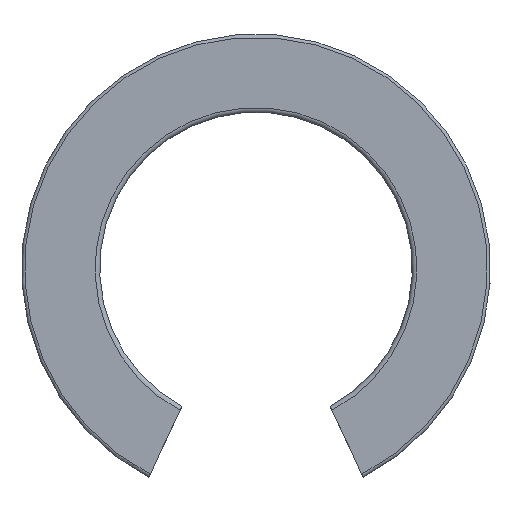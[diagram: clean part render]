
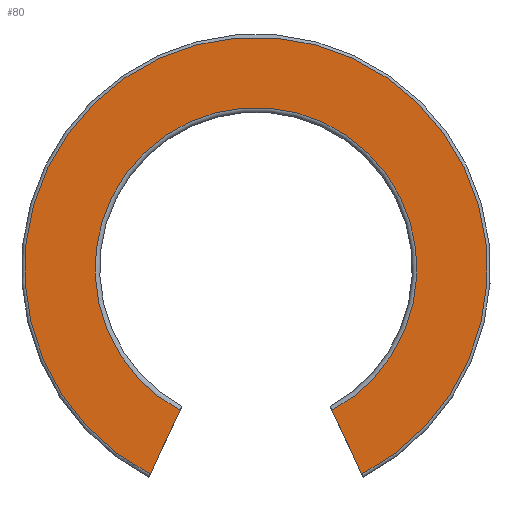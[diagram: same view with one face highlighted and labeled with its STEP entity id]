
A CAD part, left-side view. The second image highlights one B-rep face of the part: STEP entity #80.
In plain terms, the highlighted planar face has unit normal (-1, 0, 0).
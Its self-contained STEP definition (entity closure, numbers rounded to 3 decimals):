
#80=ADVANCED_FACE('',(#112),#113,.F.);
#112=FACE_OUTER_BOUND('',#164,.T.);
#113=PLANE('',#165);
#164=EDGE_LOOP('',(#261,#262,#263,#264));
#165=AXIS2_PLACEMENT_3D('',#265,#266,#267);
#261=ORIENTED_EDGE('',*,*,#428,.F.);
#262=ORIENTED_EDGE('',*,*,#454,.F.);
#263=ORIENTED_EDGE('',*,*,#462,.F.);
#264=ORIENTED_EDGE('',*,*,#463,.T.);
#265=CARTESIAN_POINT('',(0.0,28.119,0.0));
#266=DIRECTION('',(1.0,0.0,0.0));
#267=DIRECTION('',(0.0,0.0,-1.0));
#428=EDGE_CURVE('',#500,#501,#502,.T.);
#454=EDGE_CURVE('',#550,#500,#552,.T.);
#462=EDGE_CURVE('',#564,#550,#565,.T.);
#463=EDGE_CURVE('',#564,#501,#566,.T.);
#500=VERTEX_POINT('',#620);
#501=VERTEX_POINT('',#621);
#502=LINE('',#622,#623);
#550=VERTEX_POINT('',#710);
#552=CIRCLE('',#717,19.558);
#564=VERTEX_POINT('',#740);
#565=LINE('',#741,#742);
#566=CIRCLE('',#743,28.119);
#620=CARTESIAN_POINT('',(0.0,9.236,-17.24));
#621=CARTESIAN_POINT('',(0.0,12.858,-25.007));
#622=CARTESIAN_POINT('',(0.0,6.006,-10.312));
#623=VECTOR('',#820,1.0);
#710=CARTESIAN_POINT('',(0.0,-9.236,-17.24));
#717=AXIS2_PLACEMENT_3D('',#843,#844,#845);
#740=CARTESIAN_POINT('',(0.0,-12.858,-25.007));
#741=CARTESIAN_POINT('',(0.0,4.039,11.229));
#742=VECTOR('',#859,1.0);
#743=AXIS2_PLACEMENT_3D('',#860,#861,#862);
#820=DIRECTION('',(0.0,0.423,-0.906));
#843=CARTESIAN_POINT('',(0.0,0.0,0.0));
#844=DIRECTION('',(-1.0,0.0,0.0));
#845=DIRECTION('',(0.0,0.0,1.0));
#859=DIRECTION('',(0.0,0.423,0.906));
#860=CARTESIAN_POINT('',(0.0,0.0,0.0));
#861=DIRECTION('',(-1.0,0.0,0.0));
#862=DIRECTION('',(0.0,0.0,1.0));
